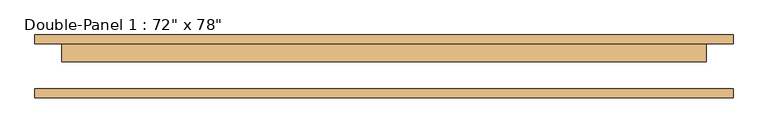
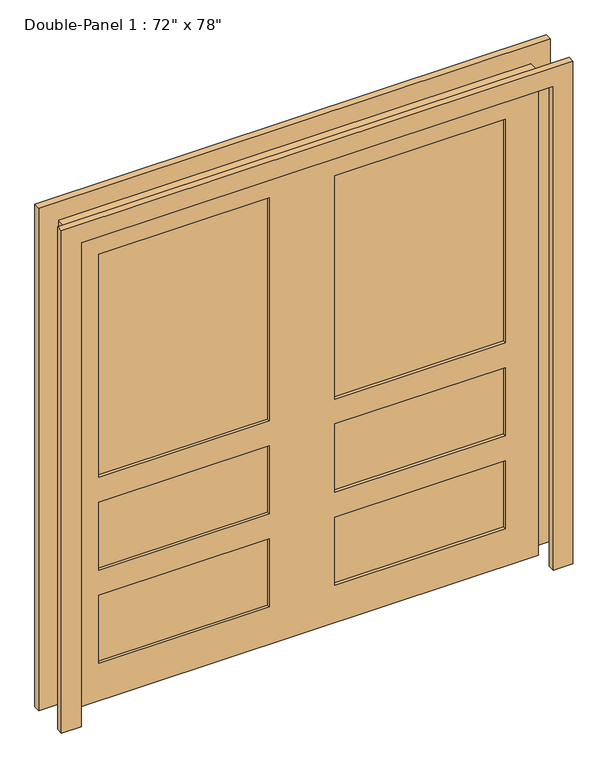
"""IFC4 building model written with IfcOpenShell, lengths in millimetres: door geometry."""

from ifc_helpers import new_model, si_unit, frame, origin, place, context, project, spatial, polyline, outline, extrude, source, transform, mapped, element, save


def door_c59f2623(model_context):
    return source(origin(), model_context, "Body", "SweptSolid", [
        extrude(outline(polyline([(2057.4, -990.6), (0.0, -990.6), (0.0, -914.4), (1981.2, -914.4), (1981.2, 914.4), (0.0, 914.4), (0.0, 990.6), (2057.4, 990.6), (2057.4, -990.6)])), frame((0.0, 63.5, 0.0), z_axis=(0.0, 1.0, 0.0), x_axis=(0.0, 0.0, 1.0)), (0.0, 0.0, 1.0), 25.4),
        extrude(outline(polyline([(127.0, 50.8), (787.4, 50.8), (787.4, 25.4), (127.0, 25.4), (127.0, 50.8)])), frame((0.0, 0.0, 914.4), z_axis=(0.0, 0.0, 1.0), x_axis=(1.0, 0.0, 0.0)), (0.0, 0.0, 1.0), 914.4),
        extrude(outline(polyline([(127.0, 50.8), (787.4, 50.8), (787.4, 25.4), (127.0, 25.4), (127.0, 50.8)])), frame((0.0, 0.0, 533.4), z_axis=(0.0, 0.0, 1.0), x_axis=(1.0, 0.0, 0.0)), (0.0, 0.0, 1.0), 279.4),
        extrude(outline(polyline([(127.0, 50.8), (787.4, 50.8), (787.4, 25.4), (127.0, 25.4), (127.0, 50.8)])), frame((0.0, 0.0, 152.4), z_axis=(0.0, 0.0, 1.0), x_axis=(1.0, 0.0, 0.0)), (0.0, 0.0, 1.0), 279.4),
        extrude(outline(polyline([(-787.4, 50.8), (-127.0, 50.8), (-127.0, 25.4), (-787.4, 25.4), (-787.4, 50.8)])), frame((0.0, 0.0, 914.4), z_axis=(0.0, 0.0, 1.0), x_axis=(1.0, 0.0, 0.0)), (0.0, 0.0, 1.0), 914.4),
        extrude(outline(polyline([(-787.4, 50.8), (-127.0, 50.8), (-127.0, 25.4), (-787.4, 25.4), (-787.4, 50.8)])), frame((0.0, 0.0, 533.4), z_axis=(0.0, 0.0, 1.0), x_axis=(1.0, 0.0, 0.0)), (0.0, 0.0, 1.0), 279.4),
        extrude(outline(polyline([(-787.4, 50.8), (-127.0, 50.8), (-127.0, 25.4), (-787.4, 25.4), (-787.4, 50.8)])), frame((0.0, 0.0, 152.4), z_axis=(0.0, 0.0, 1.0), x_axis=(1.0, 0.0, 0.0)), (0.0, 0.0, 1.0), 279.4),
        extrude(outline(polyline([(1981.2, -914.4), (0.0, -914.4), (0.0, 914.4), (1981.2, 914.4), (1981.2, -914.4)]), holes=[polyline([(1828.8, 127.0), (1828.8, 787.4), (914.4, 787.4), (914.4, 127.0), (1828.8, 127.0)]), polyline([(533.4, 787.4), (533.4, 127.0), (812.8, 127.0), (812.8, 787.4), (533.4, 787.4)]), polyline([(431.8, 787.4), (152.4, 787.4), (152.4, 127.0), (431.8, 127.0), (431.8, 787.4)]), polyline([(1828.8, -127.0), (914.4, -127.0), (914.4, -787.4), (1828.8, -787.4), (1828.8, -127.0)]), polyline([(812.8, -787.4), (812.8, -127.0), (533.4, -127.0), (533.4, -787.4), (812.8, -787.4)]), polyline([(152.4, -127.0), (152.4, -787.4), (431.8, -787.4), (431.8, -127.0), (152.4, -127.0)])]), frame((0.0, 12.7, 0.0), z_axis=(0.0, 1.0, 0.0), x_axis=(0.0, 0.0, 1.0)), (0.0, 0.0, 1.0), 50.8),
        extrude(outline(polyline([(1981.2, -914.4), (1981.2, 914.4), (0.0, 914.4), (0.0, 990.6), (2057.4, 990.6), (2057.4, -990.6), (0.0, -990.6), (0.0, -914.4), (1981.2, -914.4)])), frame((0.0, -88.9, 0.0), z_axis=(0.0, 1.0, 0.0), x_axis=(0.0, 0.0, 1.0)), (0.0, 0.0, 1.0), 25.4),
    ])


if __name__ == "__main__":
    model = new_model("IFC4")
    model_context = context("Model", 3, world=origin())
    ifc_project = project(units=[si_unit("LENGTHUNIT", "METRE", prefix="MILLI")], contexts=[model_context])
    site = spatial("IfcSite", under=ifc_project)
    building = spatial("IfcBuilding", under=site)
    placement = place(None, origin())
    door_shape = door_c59f2623(model_context)
    element("IfcDoor", 1, ObjectType="Double-Panel 1 : 72\" x 78\"", at=placement, inside=building, context=model_context, shape_type="MappedRepresentation", body=[
        mapped(door_shape, transform((0.0, 0.0, 0.0), x_axis=(1.0, 0.0, 0.0), y_axis=(0.0, 1.0, 0.0), z_axis=(0.0, 0.0, 1.0))),
    ])
    save(model, "model.ifc")
